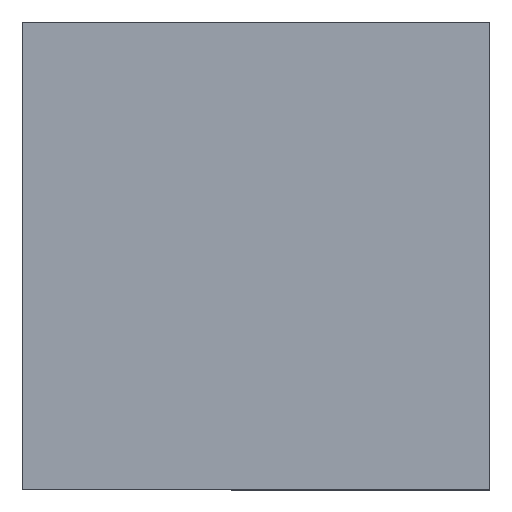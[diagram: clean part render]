
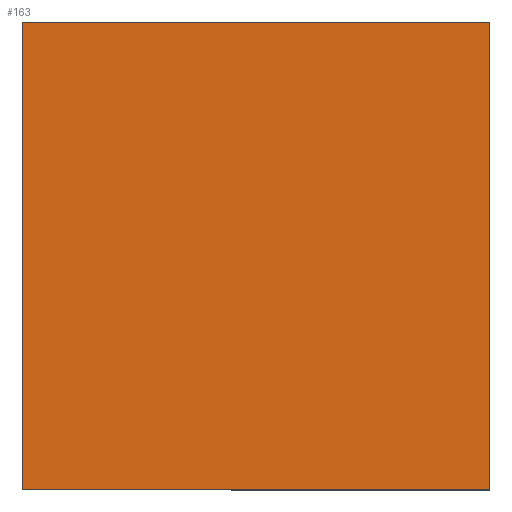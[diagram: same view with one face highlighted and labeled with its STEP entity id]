
A CAD part, top view. The second image highlights one B-rep face of the part: STEP entity #163.
In plain terms, the highlighted planar face has unit normal (0, 0, 1).
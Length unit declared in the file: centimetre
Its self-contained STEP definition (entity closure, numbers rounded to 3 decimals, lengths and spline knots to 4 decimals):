
#36 = EDGE_CURVE ( 'NONE', #454, #125, #666, .T. ) ;
#71 = VECTOR ( 'NONE', #301, 100. ) ;
#77 = LINE ( 'NONE', #693, #644 ) ;
#98 = VECTOR ( 'NONE', #670, 100. ) ;
#103 = DIRECTION ( 'NONE',  ( 1., 0., 0. ) ) ;
#113 = EDGE_CURVE ( 'NONE', #651, #454, #182, .T. ) ;
#125 = VERTEX_POINT ( 'NONE', #557 ) ;
#163 = ADVANCED_FACE ( 'NONE', ( #289 ), #653, .T. ) ;
#182 = LINE ( 'NONE', #242, #98 ) ;
#200 = ORIENTED_EDGE ( 'NONE', *, *, #36, .T. ) ;
#210 = ORIENTED_EDGE ( 'NONE', *, *, #704, .T. ) ;
#221 = CARTESIAN_POINT ( 'NONE',  ( 1000., 0., 1000. ) ) ;
#242 = CARTESIAN_POINT ( 'NONE',  ( 1000., 1000., 1000. ) ) ;
#265 = ORIENTED_EDGE ( 'NONE', *, *, #113, .T. ) ;
#289 = FACE_OUTER_BOUND ( 'NONE', #608, .T. ) ;
#300 = CARTESIAN_POINT ( 'NONE',  ( 0., 0., 1000. ) ) ;
#301 = DIRECTION ( 'NONE',  ( -1., 0., 0. ) ) ;
#324 = LINE ( 'NONE', #757, #567 ) ;
#410 = EDGE_CURVE ( 'NONE', #125, #691, #77, .T. ) ;
#454 = VERTEX_POINT ( 'NONE', #702 ) ;
#457 = CARTESIAN_POINT ( 'NONE',  ( 0., 0., 1000. ) ) ;
#490 = CARTESIAN_POINT ( 'NONE',  ( 0., 1000., 1000. ) ) ;
#504 = ORIENTED_EDGE ( 'NONE', *, *, #410, .T. ) ;
#557 = CARTESIAN_POINT ( 'NONE',  ( 0., 1000., 1000. ) ) ;
#567 = VECTOR ( 'NONE', #696, 100. ) ;
#576 = DIRECTION ( 'NONE',  ( 0., -1., 0. ) ) ;
#608 = EDGE_LOOP ( 'NONE', ( #504, #210, #265, #200 ) ) ;
#644 = VECTOR ( 'NONE', #576, 100. ) ;
#651 = VERTEX_POINT ( 'NONE', #221 ) ;
#653 = PLANE ( 'NONE',  #701 ) ;
#666 = LINE ( 'NONE', #490, #71 ) ;
#670 = DIRECTION ( 'NONE',  ( 0., 1., 0. ) ) ;
#691 = VERTEX_POINT ( 'NONE', #457 ) ;
#693 = CARTESIAN_POINT ( 'NONE',  ( 0., 1000., 1000. ) ) ;
#696 = DIRECTION ( 'NONE',  ( 1., 0., 0. ) ) ;
#701 = AXIS2_PLACEMENT_3D ( 'NONE', #300, #727, #103 ) ;
#702 = CARTESIAN_POINT ( 'NONE',  ( 1000., 1000., 1000. ) ) ;
#704 = EDGE_CURVE ( 'NONE', #691, #651, #324, .T. ) ;
#727 = DIRECTION ( 'NONE',  ( 0., 0., 1. ) ) ;
#757 = CARTESIAN_POINT ( 'NONE',  ( 0., 0., 1000. ) ) ;
